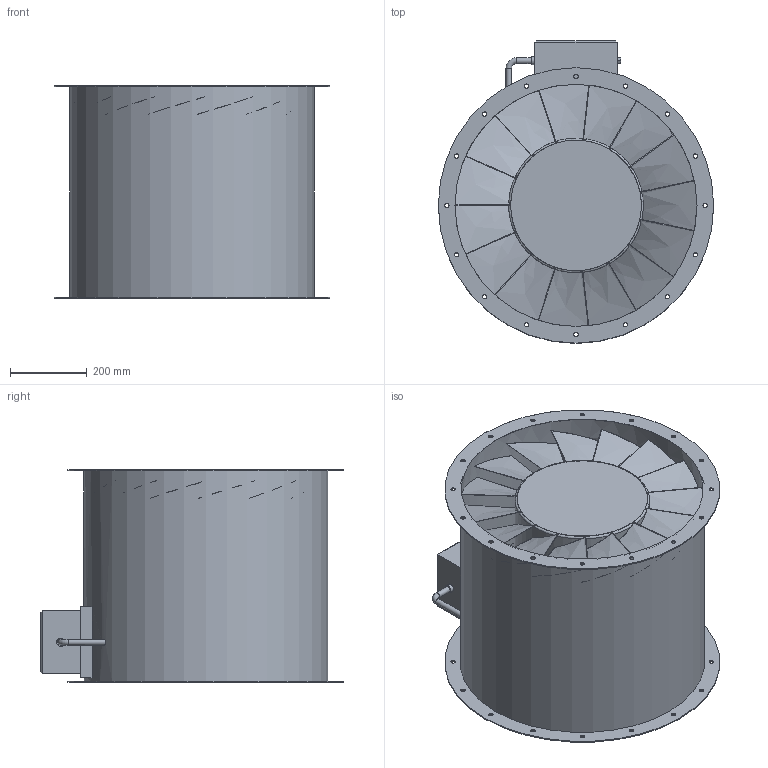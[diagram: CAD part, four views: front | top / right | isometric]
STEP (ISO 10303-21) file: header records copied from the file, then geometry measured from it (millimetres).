
FILE_DESCRIPTION(/* description */ (''),/* implementation_level */ '2;1');
FILE_NAME(/* name */ 'Z:\Output\AMD_630-8-4_0.55-2-03297-030.stp',/* time_stamp */ '2021-12-10T17:06:56+01:00',/* author */ ('engineering1'),/* organization */ (''),/* preprocessor_version */ 'ST-DEVELOPER v17.2',/* originating_system */ 'Autodesk Inventor 2019',/* authorisation */ '');
FILE_SCHEMA (('AUTOMOTIVE_DESIGN { 1 0 10303 214 3 1 1 }'));
Length unit declared in the file: millimetre
Products named in the file (1): AMD W
Bounding box: 719 x 790.5 x 555 mm (x, y, z)
Volume: 57980832.6 mm3; surface area: 4629512.6 mm2
Topology: 1 solids, 44 shells, 451 faces, 1062 edges, 673 vertices
Faces by surface type: plane 239, cylinder 150, bspline 45, torus 17
Full cylindrical faces by diameter (mm): 11.5 x32, 15 x3, 21 x1, 351.111 x1, 632 x1, 638 x1, 719 x2
Entity records: 14244 total; most frequent: CARTESIAN_POINT 3977, ORIENTED_EDGE 2124, DIRECTION 1979, EDGE_CURVE 1062, AXIS2_PLACEMENT_3D 721, VERTEX_POINT 673, EDGE_LOOP 540, LINE 537
